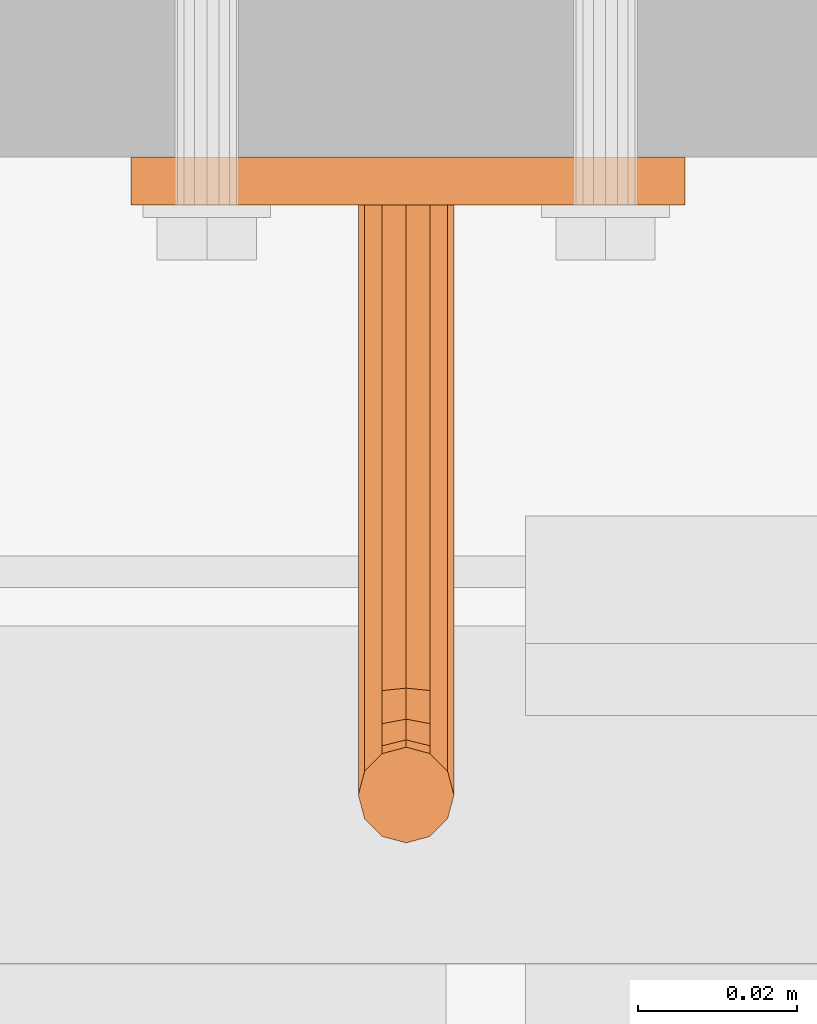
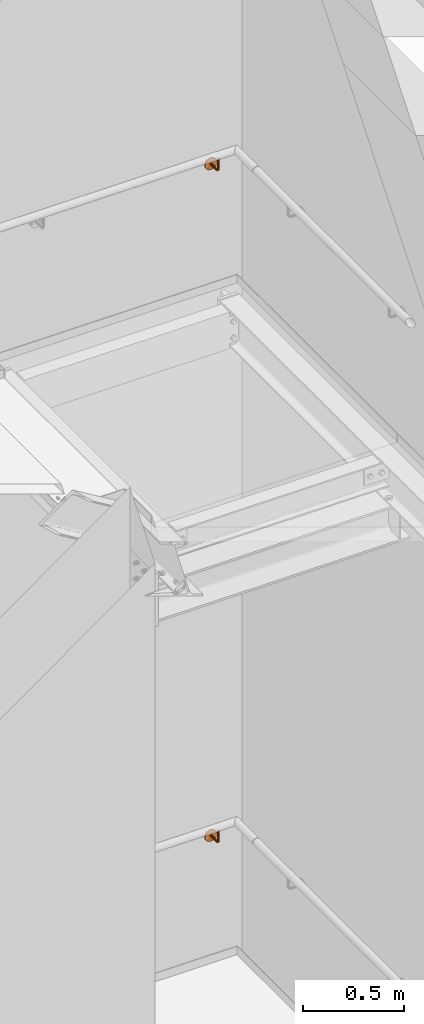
# One storey, part 398 of 410: 2 proxies.
"""IFC2X3 building model written with IfcOpenShell, lengths in millimetres."""

import ifcopenshell
import ifcopenshell.guid

model = None  # the IFC model being written
_history = None  # IfcOwnerHistory: only IFC2X3 demands one
_inside = {}  # id of a spatial element -> (the spatial element, [elements in it])
_under = {}  # id of a project, library or spatial element -> (it, [spatial elements below it])
_declared = {}  # id of a project -> (the project, [libraries it declares])
_typed = {}  # id of a type object -> (the type object, [elements of that type])
_made_of = {}  # id of a material, layer set ... -> (it, [elements and type objects made of it])


def new_model(schema):
    """Start an empty IFC model of exactly this schema.

    Asked for "IFC4X3", IfcOpenShell would pick the latest addendum, in which some entities
    have other attributes; the version numbers below select the first issue.
    IFC2X3 requires an IfcOwnerHistory on every rooted entity: one is made here for all.
    """
    global model, _history
    if schema == "IFC4X3":
        model = ifcopenshell.file(schema_version=(4, 3, 0, 0))
    else:
        model = ifcopenshell.file(schema=schema)
    _inside.clear()
    _under.clear()
    _declared.clear()
    _typed.clear()
    _made_of.clear()
    _history = None
    if model.schema == "IFC2X3":
        org = make("IfcOrganization", Name="unknown")
        user = make(
            "IfcPersonAndOrganization",
            ThePerson=make("IfcPerson", FamilyName="unknown"),
            TheOrganization=org,
        )
        app = make(
            "IfcApplication",
            ApplicationDeveloper=org,
            Version="unknown",
            ApplicationFullName="unknown",
            ApplicationIdentifier="unknown",
        )
        _history = make(
            "IfcOwnerHistory",
            OwningUser=user,
            OwningApplication=app,
            ChangeAction="ADDED",
            CreationDate=0,
        )
    return model


def make(cls, **values):
    """One entity of the class cls with the attributes given. An attribute that is None is left unset."""
    return model.create_entity(
        cls, **{name: value for name, value in values.items() if value is not None}
    )


def entity(cls, *values):
    """Any entity or typed value of the class cls, its attributes in the order of the schema. None: left unset."""
    e = model.create_entity(cls)
    for i, value in enumerate(values):
        if value is not None:
            e[i] = value
    return e


def rooted(cls, **values):
    """An entity with a GlobalId (a new one), such as an element, a storey or a relation."""
    return make(cls, GlobalId=ifcopenshell.guid.new(), OwnerHistory=_history, **values)


def si_unit(unit_type, name, prefix=None):
    """IfcSIUnit, for example si_unit("LENGTHUNIT", "METRE", prefix="MILLI")."""
    return make("IfcSIUnit", UnitType=unit_type, Prefix=prefix, Name=name)


def converted_unit(unit_type, name, factor, base, dimensions=None, offset=None):
    """IfcConversionBasedUnit, such as the inch: factor (a typed value) times the base unit."""
    return make(
        "IfcConversionBasedUnit"
        if offset is None
        else "IfcConversionBasedUnitWithOffset",
        ConversionOffset=offset,
        Dimensions=None
        if dimensions is None
        else entity("IfcDimensionalExponents", *dimensions),
        UnitType=unit_type,
        Name=name,
        ConversionFactor=make(
            "IfcMeasureWithUnit", ValueComponent=factor, UnitComponent=base
        ),
    )


def assignment(units):
    """IfcUnitAssignment: the units of a project."""
    return None if units is None else make("IfcUnitAssignment", Units=units)


def point(xyz):
    """IfcCartesianPoint."""
    return None if xyz is None else make("IfcCartesianPoint", Coordinates=xyz)


def direction(xyz):
    """IfcDirection."""
    return None if xyz is None else make("IfcDirection", DirectionRatios=xyz)


def frame(location, z_axis=None, x_axis=None):
    """IfcAxis2Placement3D, a coordinate frame: its origin and axes. An axis left out is left unset."""
    return make(
        "IfcAxis2Placement3D",
        Location=point(location),
        Axis=direction(z_axis),
        RefDirection=direction(x_axis),
    )


def origin_with_axes():
    """The frame at (0, 0, 0) with the z axis (0, 0, 1) and the x axis (1, 0, 0) written out."""
    return frame((0.0, 0.0, 0.0), z_axis=(0.0, 0.0, 1.0), x_axis=(1.0, 0.0, 0.0))


def place(relative_to, where):
    """IfcLocalPlacement: puts the frame where relative to a parent placement (None: the world)."""
    return make(
        "IfcLocalPlacement", PlacementRelTo=relative_to, RelativePlacement=where
    )


def context(
    kind, dimensions, precision=None, world=None, true_north=None, identifier=None
):
    """IfcGeometricRepresentationContext, for example the 3D "Model" context."""
    return make(
        "IfcGeometricRepresentationContext",
        ContextIdentifier=identifier,
        ContextType=kind,
        CoordinateSpaceDimension=dimensions,
        Precision=precision,
        WorldCoordinateSystem=world,
        TrueNorth=true_north,
    )


def project(units=None, contexts=None):
    """IfcProject with its units and contexts."""
    return rooted(
        "IfcProject",
        Name="project",
        RepresentationContexts=contexts,
        UnitsInContext=assignment(units),
    )


def spatial(cls, under=None, at=None, **own):
    """A site, building, storey or space (cls), placed at a placement, below another one or the project."""
    s = rooted(cls, ObjectPlacement=at, **own)
    if under is not None:
        _under.setdefault(under.id(), (under, []))[1].append(s)
    return s


def faces_of(points, faces, orient=None, outer=None):
    """IfcFace entities. A face is a list of loops; a loop is a list of indices into points, from 0.

    orient and outer hold one flag for each loop. By default every Orientation is true, the
    first loop of a face is its IfcFaceOuterBound and the others are IfcFaceBound.
    """
    made = []
    for i, loops in enumerate(faces):
        bounds = []
        for j, loop in enumerate(loops):
            is_outer = j == 0 if outer is None else outer[i][j]
            bounds.append(
                make(
                    "IfcFaceOuterBound" if is_outer else "IfcFaceBound",
                    Bound=make("IfcPolyLoop", Polygon=[points[k] for k in loop]),
                    Orientation=True if orient is None else orient[i][j],
                )
            )
        made.append(make("IfcFace", Bounds=bounds))
    return made


def faceted_brep(points, faces, orient=None, outer=None, voids=None):
    """IfcFacetedBrep: a solid bounded by flat faces; with voids (closed shells), ...WithVoids."""
    shared = [point(p) for p in points]
    hull = make("IfcClosedShell", CfsFaces=faces_of(shared, faces, orient, outer))
    if voids is None:
        return make("IfcFacetedBrep", Outer=hull)
    return make(
        "IfcFacetedBrepWithVoids",
        Outer=hull,
        Voids=[
            make(cls, CfsFaces=faces_of(shared, fs, o, b)) for cls, fs, o, b in voids
        ],
    )


def shape(context_of_items, identifier, shape_type, items):
    """IfcShapeRepresentation: the items that make up one representation, for example the "Body"."""
    return make(
        "IfcShapeRepresentation",
        ContextOfItems=context_of_items,
        RepresentationIdentifier=identifier,
        RepresentationType=shape_type,
        Items=items,
    )


def made_of(thing, what):
    """Note that an element or type object is made of a material, layer set ...; save() writes the relation."""
    if what is not None:
        _made_of.setdefault(what.id(), (what, []))[1].append(thing)
    return thing


def element(
    cls,
    number,
    at=None,
    inside=None,
    cuts=None,
    type_object=None,
    material=None,
    context=None,
    identifier="Body",
    shape_type=None,
    held_by="IfcProductDefinitionShape",
    body=None,
    shapes=None,
    **own,
):
    """One element of the class cls, such as IfcWall. Its Tag is "e" and its number.

    at: its placement. inside: the storey or other place that contains it. cuts: it is an
    opening in that element (IfcRelVoidsElement). A single representation is given by context,
    identifier, shape_type and body (its items); several are given by shapes. held_by: the class
    of the entity that holds the representations. save() writes the other relations.
    """
    e = rooted(cls, Tag="e%d" % number, ObjectPlacement=at, **own)
    if body is not None:
        shapes = [shape(context, identifier, shape_type, body)]
    if shapes is not None:
        e.Representation = make(held_by, Representations=shapes)
    if inside is not None:
        _inside.setdefault(inside.id(), (inside, []))[1].append(e)
    if cuts is not None:
        rooted(
            "IfcRelVoidsElement", RelatingBuildingElement=cuts, RelatedOpeningElement=e
        )
    if type_object is not None:
        _typed.setdefault(type_object.id(), (type_object, []))[1].append(e)
    return made_of(e, material)


def aggregate(whole, parts):
    """IfcRelAggregates: a whole, such as a stair, and the parts it consists of."""
    return rooted("IfcRelAggregates", RelatingObject=whole, RelatedObjects=parts)


def save(model, path):
    """Write the relations noted so far, then the file.

    IfcRelAggregates (storeys below a building ...), IfcRelContainedInSpatialStructure (elements
    in a storey), IfcRelDefinesByType, IfcRelAssociatesMaterial and IfcRelDeclares: one each for
    every whole, place, type object, material and project.
    """
    for whole, parts in _under.values():
        aggregate(whole, parts)
    for where, things in _inside.values():
        rooted(
            "IfcRelContainedInSpatialStructure",
            RelatedElements=things,
            RelatingStructure=where,
        )
    for kind, things in _typed.values():
        rooted("IfcRelDefinesByType", RelatedObjects=things, RelatingType=kind)
    for what, things in _made_of.values():
        rooted("IfcRelAssociatesMaterial", RelatedObjects=things, RelatingMaterial=what)
    for by, libraries in _declared.values():
        rooted("IfcRelDeclares", RelatingContext=by, RelatedDefinitions=libraries)
    model.write(path)


model = new_model("IFC2X3")

# Units and contexts
model_context = context("Model", 3, precision=1e-09, world=origin_with_axes())
ifc_project = project(units=[si_unit("LENGTHUNIT", "METRE", prefix="MILLI"), si_unit("AREAUNIT", "SQUARE_METRE"), si_unit("VOLUMEUNIT", "CUBIC_METRE"), converted_unit("PLANEANGLEUNIT", "DEGREE", entity("IfcPlaneAngleMeasure", 0.01745329), si_unit("PLANEANGLEUNIT", "RADIAN"), dimensions=[0, 0, 0, 0, 0, 0, 0])], contexts=[model_context])

# Site, building, storey
site_placement = place(None, origin_with_axes())
site = spatial("IfcSite", under=ifc_project, at=site_placement, Name="mKR Teilneubau & Sanierung BA1 - Ostfildern", CompositionType="ELEMENT")
building_placement = place(site_placement, origin_with_axes())
building = spatial("IfcBuilding", under=site, at=building_placement, Name="Struktur 1", CompositionType="ELEMENT")
storey_placement = place(building_placement, origin_with_axes())
storey = spatial("IfcBuildingStorey", under=building, at=storey_placement, Name="Default Storey", CompositionType="ELEMENT", Elevation=0.0)

# Proxies
proxy_1_placement = place(None, origin_with_axes())
element("IfcBuildingElementProxy", 1, at=proxy_1_placement, inside=storey, ObjectType="-", context=model_context, shape_type="Brep", body=[
    faceted_brep([(3081.31860902, 18620.000061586, -1410.875), (3081.31860902, 18614.000061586, -1410.875), (3080.749216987, 18614.000061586, -1413.0), (3080.749216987, 18620.000061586, -1413.0), (3129.142402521, 18614.000061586, -1383.699173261), (3118.591209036, 18614.000061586, -1379.070990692), (3107.108939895, 18614.000061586, -1378.119542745), (3095.939877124, 18614.000061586, -1380.947933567), (3086.29436198, 18614.000061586, -1387.249663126), (3079.217635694, 18614.000061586, -1396.341841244), (3075.476571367, 18614.000061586, -1407.23918934), (3075.476571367, 18614.000061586, -1418.76081066), (3079.217635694, 18614.000061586, -1429.658158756), (3086.29436198, 18614.000061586, -1438.750336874), (3095.939877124, 18614.000061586, -1445.052066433), (3107.108939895, 18614.000061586, -1447.880457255), (3118.591209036, 18614.000061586, -1446.929009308), (3129.142402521, 18614.000061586, -1442.300826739), (3137.619134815, 18614.000061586, -1434.497444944), (3143.102820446, 18614.000061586, -1424.364481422), (3144.999216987, 18614.000061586, -1413.0), (3143.102820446, 18614.000061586, -1401.635518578), (3137.619134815, 18614.000061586, -1391.502555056), (3082.874216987, 18614.000061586, -1409.319392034), (3084.999216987, 18614.000061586, -1408.75), (3087.124216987, 18614.000061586, -1409.319392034), (3088.679824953, 18614.000061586, -1410.875), (3089.249216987, 18614.000061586, -1413.0), (3088.679824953, 18614.000061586, -1415.125), (3087.124216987, 18614.000061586, -1416.680607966), (3084.999216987, 18614.000061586, -1417.25), (3082.874216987, 18614.000061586, -1416.680607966), (3081.31860902, 18614.000061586, -1415.125), (3131.31860902, 18614.000061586, -1410.875), (3132.874216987, 18614.000061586, -1409.319392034), (3134.999216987, 18614.000061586, -1408.75), (3137.124216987, 18614.000061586, -1409.319392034), (3138.679824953, 18614.000061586, -1410.875), (3139.249216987, 18614.000061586, -1413.0), (3138.679824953, 18614.000061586, -1415.125), (3137.124216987, 18614.000061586, -1416.680607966), (3134.999216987, 18614.000061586, -1417.25), (3132.874216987, 18614.000061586, -1416.680607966), (3131.31860902, 18614.000061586, -1415.125), (3130.749216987, 18614.000061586, -1413.0), (3082.874216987, 18620.000061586, -1409.319392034), (3129.142402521, 18620.000061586, -1442.300826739), (3118.591209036, 18620.000061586, -1446.929009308), (3107.108939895, 18620.000061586, -1447.880457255), (3095.939877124, 18620.000061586, -1445.052066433), (3086.29436198, 18620.000061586, -1438.750336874), (3079.217635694, 18620.000061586, -1429.658158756), (3075.476571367, 18620.000061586, -1418.76081066), (3075.476571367, 18620.000061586, -1407.23918934), (3079.217635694, 18620.000061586, -1396.341841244), (3086.29436198, 18620.000061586, -1387.249663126), (3095.939877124, 18620.000061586, -1380.947933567), (3107.108939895, 18620.000061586, -1378.119542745), (3118.591209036, 18620.000061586, -1379.070990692), (3129.142402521, 18620.000061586, -1383.699173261), (3137.619134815, 18620.000061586, -1391.502555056), (3143.102820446, 18620.000061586, -1401.635518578), (3144.999216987, 18620.000061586, -1413.0), (3143.102820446, 18620.000061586, -1424.364481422), (3137.619134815, 18620.000061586, -1434.497444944), (3081.31860902, 18620.000061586, -1415.125), (3082.874216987, 18620.000061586, -1416.680607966), (3084.999216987, 18620.000061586, -1417.25), (3087.124216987, 18620.000061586, -1416.680607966), (3088.679824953, 18620.000061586, -1415.125), (3089.249216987, 18620.000061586, -1413.0), (3088.679824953, 18620.000061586, -1410.875), (3087.124216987, 18620.000061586, -1409.319392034), (3084.999216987, 18620.000061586, -1408.75), (3131.31860902, 18620.000061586, -1415.125), (3132.874216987, 18620.000061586, -1416.680607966), (3134.999216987, 18620.000061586, -1417.25), (3137.124216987, 18620.000061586, -1416.680607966), (3138.679824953, 18620.000061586, -1415.125), (3139.249216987, 18620.000061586, -1413.0), (3138.679824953, 18620.000061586, -1410.875), (3137.124216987, 18620.000061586, -1409.319392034), (3134.999216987, 18620.000061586, -1408.75), (3132.874216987, 18620.000061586, -1409.319392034), (3131.31860902, 18620.000061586, -1410.875), (3130.749216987, 18620.000061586, -1413.0)], [[[0, 1, 2, 3]], [[4, 5, 6, 7, 8, 9, 10, 11, 12, 13, 14, 15, 16, 17, 18, 19, 20, 21, 22], [2, 1, 23, 24, 25, 26, 27, 28, 29, 30, 31, 32], [33, 34, 35, 36, 37, 38, 39, 40, 41, 42, 43, 44]], [[1, 0, 45, 23]], [[46, 47, 48, 49, 50, 51, 52, 53, 54, 55, 56, 57, 58, 59, 60, 61, 62, 63, 64], [0, 3, 65, 66, 67, 68, 69, 70, 71, 72, 73, 45], [74, 75, 76, 77, 78, 79, 80, 81, 82, 83, 84, 85]], [[3, 2, 32, 65]], [[10, 53, 52, 11]], [[65, 32, 31, 66]], [[23, 45, 73, 24]], [[53, 10, 9, 54]], [[66, 31, 30, 67]], [[11, 52, 51, 12]], [[24, 73, 72, 25]], [[8, 55, 54, 9]], [[67, 30, 29, 68]], [[55, 8, 7, 56]], [[50, 13, 12, 51]], [[25, 72, 71, 26]], [[13, 50, 49, 14]], [[68, 29, 28, 69]], [[26, 71, 70, 27]], [[56, 7, 6, 57]], [[69, 28, 27, 70]], [[14, 49, 48, 15]], [[57, 6, 5, 58]], [[44, 85, 84, 33]], [[15, 48, 47, 16]], [[85, 44, 43, 74]], [[33, 84, 83, 34]], [[58, 5, 4, 59]], [[16, 47, 46, 17]], [[74, 43, 42, 75]], [[34, 83, 82, 35]], [[59, 4, 22, 60]], [[17, 46, 64, 18]], [[75, 42, 41, 76]], [[35, 82, 81, 36]], [[60, 22, 21, 61]], [[18, 64, 63, 19]], [[76, 41, 40, 77]], [[20, 62, 61, 21]], [[36, 81, 80, 37]], [[62, 20, 19, 63]], [[77, 40, 39, 78]], [[37, 80, 79, 38]], [[78, 39, 38, 79]]]),
    faceted_brep([(3115.999216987, 18558.000061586, -1413.0), (3115.999216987, 18614.000061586, -1413.0), (3115.195369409, 18614.000061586, -1410.0), (3115.195369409, 18558.000061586, -1410.0), (3115.195369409, 18537.000061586, -1395.0), (3115.195369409, 18537.000061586, -1338.0), (3112.999216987, 18534.803909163, -1338.0), (3112.999216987, 18534.803909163, -1395.0), (3115.999216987, 18540.000061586, -1395.0), (3115.999216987, 18540.000061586, -1338.0), (3112.999216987, 18536.569611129, -1403.876783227), (3115.195369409, 18538.598591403, -1403.03635208), (3106.999216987, 18614.000061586, -1418.196152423), (3104.803064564, 18614.000061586, -1416.0), (3103.999216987, 18614.000061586, -1413.0), (3104.803064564, 18614.000061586, -1410.0), (3106.999216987, 18614.000061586, -1407.803847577), (3109.999216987, 18614.000061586, -1407.0), (3112.999216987, 18614.000061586, -1407.803847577), (3115.195369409, 18614.000061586, -1416.0), (3112.999216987, 18614.000061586, -1418.196152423), (3109.999216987, 18614.000061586, -1419.0), (3115.195369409, 18558.000061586, -1416.0), (3115.195369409, 18552.2598101, -1408.858192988), (3115.999216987, 18551.111759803, -1411.629831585), (3106.999216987, 18545.196214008, -1338.0), (3104.803064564, 18543.000061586, -1338.0), (3103.999216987, 18540.000061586, -1338.0), (3104.803064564, 18537.000061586, -1338.0), (3106.999216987, 18534.803909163, -1338.0), (3109.999216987, 18534.000061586, -1338.0), (3115.195369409, 18543.000061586, -1338.0), (3112.999216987, 18545.196214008, -1338.0), (3109.999216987, 18546.000061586, -1338.0), (3115.999216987, 18541.37023, -1401.888301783), (3115.195369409, 18543.150819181, -1409.849242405), (3115.999216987, 18545.272139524, -1407.727922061), (3112.999216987, 18558.000061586, -1407.803847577), (3115.195369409, 18549.963709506, -1414.401470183), (3109.999216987, 18534.000061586, -1395.0), (3115.195369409, 18543.000061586, -1395.0), (3109.999216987, 18535.826952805, -1404.184402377), (3112.999216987, 18541.59790491, -1411.402156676), (3115.195369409, 18547.393459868, -1405.606601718), (3112.999216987, 18553.100241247, -1406.829212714), (3112.999216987, 18558.000061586, -1418.196152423), (3115.195369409, 18544.141868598, -1400.740251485), (3109.999216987, 18558.000061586, -1407.0), (3112.999216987, 18549.123278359, -1416.430450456), (3106.999216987, 18534.803909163, -1395.0), (3112.999216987, 18545.196214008, -1395.0), (3106.999216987, 18536.569611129, -1403.876783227), (3109.999216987, 18541.029498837, -1411.970562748), (3112.999216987, 18548.946374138, -1404.053687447), (3109.999216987, 18553.407860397, -1406.08655439), (3109.999216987, 18558.000061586, -1419.0), (3112.999216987, 18546.170848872, -1399.899820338), (3104.803064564, 18537.000061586, -1395.0), (3106.999216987, 18558.000061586, -1407.803847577), (3109.999216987, 18548.815659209, -1417.17310878), (3109.999216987, 18546.000061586, -1395.0), (3104.803064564, 18538.598591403, -1403.03635208), (3106.999216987, 18541.59790491, -1411.402156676), (3109.999216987, 18549.514780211, -1403.485281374), (3106.999216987, 18553.100241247, -1406.829212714), (3106.999216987, 18558.000061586, -1418.196152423), (3109.999216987, 18546.913507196, -1399.592201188), (3103.999216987, 18540.000061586, -1395.0), (3104.803064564, 18558.000061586, -1410.0), (3106.999216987, 18549.123278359, -1416.430450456), (3106.999216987, 18545.196214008, -1395.0), (3104.803064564, 18543.000061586, -1395.0), (3103.999216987, 18541.37023, -1401.888301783), (3104.803064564, 18543.150819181, -1409.849242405), (3106.999216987, 18548.946374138, -1404.053687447), (3104.803064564, 18552.2598101, -1408.858192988), (3103.999216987, 18558.000061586, -1413.0), (3104.803064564, 18558.000061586, -1416.0), (3106.999216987, 18546.170848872, -1399.899820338), (3104.803064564, 18549.963709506, -1414.401470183), (3104.803064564, 18544.141868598, -1400.740251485), (3103.999216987, 18545.272139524, -1407.727922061), (3103.999216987, 18551.111759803, -1411.629831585), (3104.803064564, 18547.393459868, -1405.606601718)], [[[0, 1, 2, 3]], [[4, 5, 6, 7]], [[5, 4, 8, 9]], [[4, 7, 10, 11]], [[12, 13, 14, 15, 16, 17, 18, 2, 1, 19, 20, 21]], [[1, 0, 22, 19]], [[0, 3, 23, 24]], [[25, 26, 27, 28, 29, 30, 6, 5, 9, 31, 32, 33]], [[11, 34, 8, 4]], [[35, 36, 34, 11]], [[3, 2, 18, 37]], [[24, 38, 22, 0]], [[36, 35, 38, 24]], [[7, 6, 30, 39]], [[9, 8, 40, 31]], [[7, 39, 41, 10]], [[11, 10, 42, 35]], [[24, 23, 43, 36]], [[3, 37, 44, 23]], [[19, 22, 45, 20]], [[36, 43, 46, 34]], [[34, 46, 40, 8]], [[37, 18, 17, 47]], [[38, 48, 45, 22]], [[35, 42, 48, 38]], [[39, 30, 29, 49]], [[31, 40, 50, 32]], [[39, 49, 51, 41]], [[10, 41, 52, 42]], [[23, 44, 53, 43]], [[37, 47, 54, 44]], [[20, 45, 55, 21]], [[43, 53, 56, 46]], [[46, 56, 50, 40]], [[49, 29, 28, 57]], [[47, 17, 16, 58]], [[48, 59, 55, 45]], [[42, 52, 59, 48]], [[32, 50, 60, 33]], [[49, 57, 61, 51]], [[41, 51, 62, 52]], [[44, 54, 63, 53]], [[47, 58, 64, 54]], [[21, 55, 65, 12]], [[56, 66, 60, 50]], [[53, 63, 66, 56]], [[57, 28, 27, 67]], [[58, 16, 15, 68]], [[59, 69, 65, 55]], [[52, 62, 69, 59]], [[33, 60, 70, 25]], [[26, 71, 67, 27]], [[25, 70, 71, 26]], [[57, 67, 72, 61]], [[51, 61, 73, 62]], [[54, 64, 74, 63]], [[58, 68, 75, 64]], [[14, 76, 68, 15]], [[13, 77, 76, 14]], [[12, 65, 77, 13]], [[66, 78, 70, 60]], [[63, 74, 78, 66]], [[69, 79, 77, 65]], [[62, 73, 79, 69]], [[67, 71, 80, 72]], [[71, 70, 78, 80]], [[61, 72, 81, 73]], [[68, 76, 82, 75]], [[64, 75, 83, 74]], [[76, 77, 79, 82]], [[74, 83, 80, 78]], [[73, 81, 82, 79]], [[72, 80, 83, 81]], [[75, 82, 81, 83]]]),
])
proxy_2_placement = place(None, origin_with_axes())
element("IfcBuildingElementProxy", 2, at=proxy_2_placement, inside=storey, ObjectType="-", context=model_context, shape_type="Brep", body=[
    faceted_brep([(3081.31860902, 18620.000061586, 2647.7684785), (3081.31860902, 18614.000061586, 2647.7684785), (3080.749216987, 18614.000061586, 2645.6434785), (3080.749216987, 18620.000061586, 2645.6434785), (3129.142402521, 18614.000061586, 2674.944305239), (3118.591209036, 18614.000061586, 2679.572487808), (3107.108939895, 18614.000061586, 2680.523935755), (3095.939877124, 18614.000061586, 2677.695544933), (3086.29436198, 18614.000061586, 2671.393815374), (3079.217635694, 18614.000061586, 2662.301637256), (3075.476571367, 18614.000061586, 2651.40428916), (3075.476571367, 18614.000061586, 2639.88266784), (3079.217635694, 18614.000061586, 2628.985319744), (3086.29436198, 18614.000061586, 2619.893141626), (3095.939877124, 18614.000061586, 2613.591412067), (3107.108939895, 18614.000061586, 2610.763021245), (3118.591209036, 18614.000061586, 2611.714469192), (3129.142402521, 18614.000061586, 2616.342651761), (3137.619134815, 18614.000061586, 2624.146033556), (3143.102820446, 18614.000061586, 2634.278997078), (3144.999216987, 18614.000061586, 2645.6434785), (3143.102820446, 18614.000061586, 2657.007959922), (3137.619134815, 18614.000061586, 2667.140923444), (3082.874216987, 18614.000061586, 2649.324086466), (3084.999216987, 18614.000061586, 2649.8934785), (3087.124216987, 18614.000061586, 2649.324086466), (3088.679824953, 18614.000061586, 2647.7684785), (3089.249216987, 18614.000061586, 2645.6434785), (3088.679824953, 18614.000061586, 2643.5184785), (3087.124216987, 18614.000061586, 2641.962870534), (3084.999216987, 18614.000061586, 2641.3934785), (3082.874216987, 18614.000061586, 2641.962870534), (3081.31860902, 18614.000061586, 2643.5184785), (3131.31860902, 18614.000061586, 2647.7684785), (3132.874216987, 18614.000061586, 2649.324086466), (3134.999216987, 18614.000061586, 2649.8934785), (3137.124216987, 18614.000061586, 2649.324086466), (3138.679824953, 18614.000061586, 2647.7684785), (3139.249216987, 18614.000061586, 2645.6434785), (3138.679824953, 18614.000061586, 2643.5184785), (3137.124216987, 18614.000061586, 2641.962870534), (3134.999216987, 18614.000061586, 2641.3934785), (3132.874216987, 18614.000061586, 2641.962870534), (3131.31860902, 18614.000061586, 2643.5184785), (3130.749216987, 18614.000061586, 2645.6434785), (3082.874216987, 18620.000061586, 2649.324086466), (3129.142402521, 18620.000061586, 2616.342651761), (3118.591209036, 18620.000061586, 2611.714469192), (3107.108939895, 18620.000061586, 2610.763021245), (3095.939877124, 18620.000061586, 2613.591412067), (3086.29436198, 18620.000061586, 2619.893141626), (3079.217635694, 18620.000061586, 2628.985319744), (3075.476571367, 18620.000061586, 2639.88266784), (3075.476571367, 18620.000061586, 2651.40428916), (3079.217635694, 18620.000061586, 2662.301637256), (3086.29436198, 18620.000061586, 2671.393815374), (3095.939877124, 18620.000061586, 2677.695544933), (3107.108939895, 18620.000061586, 2680.523935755), (3118.591209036, 18620.000061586, 2679.572487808), (3129.142402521, 18620.000061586, 2674.944305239), (3137.619134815, 18620.000061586, 2667.140923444), (3143.102820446, 18620.000061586, 2657.007959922), (3144.999216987, 18620.000061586, 2645.6434785), (3143.102820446, 18620.000061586, 2634.278997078), (3137.619134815, 18620.000061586, 2624.146033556), (3081.31860902, 18620.000061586, 2643.5184785), (3082.874216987, 18620.000061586, 2641.962870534), (3084.999216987, 18620.000061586, 2641.3934785), (3087.124216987, 18620.000061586, 2641.962870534), (3088.679824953, 18620.000061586, 2643.5184785), (3089.249216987, 18620.000061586, 2645.6434785), (3088.679824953, 18620.000061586, 2647.7684785), (3087.124216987, 18620.000061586, 2649.324086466), (3084.999216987, 18620.000061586, 2649.8934785), (3131.31860902, 18620.000061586, 2643.5184785), (3132.874216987, 18620.000061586, 2641.962870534), (3134.999216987, 18620.000061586, 2641.3934785), (3137.124216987, 18620.000061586, 2641.962870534), (3138.679824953, 18620.000061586, 2643.5184785), (3139.249216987, 18620.000061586, 2645.6434785), (3138.679824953, 18620.000061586, 2647.7684785), (3137.124216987, 18620.000061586, 2649.324086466), (3134.999216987, 18620.000061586, 2649.8934785), (3132.874216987, 18620.000061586, 2649.324086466), (3131.31860902, 18620.000061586, 2647.7684785), (3130.749216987, 18620.000061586, 2645.6434785)], [[[0, 1, 2, 3]], [[4, 5, 6, 7, 8, 9, 10, 11, 12, 13, 14, 15, 16, 17, 18, 19, 20, 21, 22], [2, 1, 23, 24, 25, 26, 27, 28, 29, 30, 31, 32], [33, 34, 35, 36, 37, 38, 39, 40, 41, 42, 43, 44]], [[1, 0, 45, 23]], [[46, 47, 48, 49, 50, 51, 52, 53, 54, 55, 56, 57, 58, 59, 60, 61, 62, 63, 64], [0, 3, 65, 66, 67, 68, 69, 70, 71, 72, 73, 45], [74, 75, 76, 77, 78, 79, 80, 81, 82, 83, 84, 85]], [[3, 2, 32, 65]], [[10, 53, 52, 11]], [[65, 32, 31, 66]], [[23, 45, 73, 24]], [[53, 10, 9, 54]], [[66, 31, 30, 67]], [[11, 52, 51, 12]], [[24, 73, 72, 25]], [[8, 55, 54, 9]], [[67, 30, 29, 68]], [[55, 8, 7, 56]], [[50, 13, 12, 51]], [[25, 72, 71, 26]], [[13, 50, 49, 14]], [[68, 29, 28, 69]], [[26, 71, 70, 27]], [[56, 7, 6, 57]], [[69, 28, 27, 70]], [[14, 49, 48, 15]], [[57, 6, 5, 58]], [[44, 85, 84, 33]], [[15, 48, 47, 16]], [[85, 44, 43, 74]], [[33, 84, 83, 34]], [[58, 5, 4, 59]], [[16, 47, 46, 17]], [[74, 43, 42, 75]], [[34, 83, 82, 35]], [[59, 4, 22, 60]], [[17, 46, 64, 18]], [[75, 42, 41, 76]], [[35, 82, 81, 36]], [[60, 22, 21, 61]], [[18, 64, 63, 19]], [[76, 41, 40, 77]], [[20, 62, 61, 21]], [[36, 81, 80, 37]], [[62, 20, 19, 63]], [[77, 40, 39, 78]], [[37, 80, 79, 38]], [[78, 39, 38, 79]]]),
    faceted_brep([(3115.999216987, 18558.000061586, 2645.6434785), (3115.999216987, 18614.000061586, 2645.6434785), (3115.195369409, 18614.000061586, 2648.6434785), (3115.195369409, 18558.000061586, 2648.6434785), (3115.195369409, 18537.000061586, 2663.6434785), (3115.195369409, 18537.000061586, 2720.6434785), (3112.999216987, 18534.803909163, 2720.6434785), (3112.999216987, 18534.803909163, 2663.6434785), (3115.999216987, 18540.000061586, 2663.6434785), (3115.999216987, 18540.000061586, 2720.6434785), (3112.999216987, 18536.569611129, 2654.766695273), (3115.195369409, 18538.598591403, 2655.60712642), (3106.999216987, 18614.000061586, 2640.447326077), (3104.803064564, 18614.000061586, 2642.6434785), (3103.999216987, 18614.000061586, 2645.6434785), (3104.803064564, 18614.000061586, 2648.6434785), (3106.999216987, 18614.000061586, 2650.839630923), (3109.999216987, 18614.000061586, 2651.6434785), (3112.999216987, 18614.000061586, 2650.839630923), (3115.195369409, 18614.000061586, 2642.6434785), (3112.999216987, 18614.000061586, 2640.447326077), (3109.999216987, 18614.000061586, 2639.6434785), (3115.195369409, 18558.000061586, 2642.6434785), (3115.195369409, 18552.2598101, 2649.785285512), (3115.999216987, 18551.111759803, 2647.013646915), (3106.999216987, 18545.196214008, 2720.6434785), (3104.803064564, 18543.000061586, 2720.6434785), (3103.999216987, 18540.000061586, 2720.6434785), (3104.803064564, 18537.000061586, 2720.6434785), (3106.999216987, 18534.803909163, 2720.6434785), (3109.999216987, 18534.000061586, 2720.6434785), (3115.195369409, 18543.000061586, 2720.6434785), (3112.999216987, 18545.196214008, 2720.6434785), (3109.999216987, 18546.000061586, 2720.6434785), (3115.999216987, 18541.37023, 2656.755176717), (3115.195369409, 18543.150819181, 2648.794236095), (3115.999216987, 18545.272139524, 2650.915556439), (3112.999216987, 18558.000061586, 2650.839630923), (3115.195369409, 18549.963709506, 2644.242008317), (3109.999216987, 18534.000061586, 2663.6434785), (3115.195369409, 18543.000061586, 2663.6434785), (3109.999216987, 18535.826952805, 2654.459076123), (3112.999216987, 18541.59790491, 2647.241321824), (3115.195369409, 18547.393459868, 2653.036876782), (3112.999216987, 18553.100241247, 2651.814265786), (3112.999216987, 18558.000061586, 2640.447326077), (3115.195369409, 18544.141868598, 2657.903227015), (3109.999216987, 18558.000061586, 2651.6434785), (3112.999216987, 18549.123278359, 2642.213028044), (3106.999216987, 18534.803909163, 2663.6434785), (3112.999216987, 18545.196214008, 2663.6434785), (3106.999216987, 18536.569611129, 2654.766695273), (3109.999216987, 18541.029498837, 2646.672915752), (3112.999216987, 18548.946374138, 2654.589791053), (3109.999216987, 18553.407860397, 2652.55692411), (3109.999216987, 18558.000061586, 2639.6434785), (3112.999216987, 18546.170848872, 2658.743658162), (3104.803064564, 18537.000061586, 2663.6434785), (3106.999216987, 18558.000061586, 2650.839630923), (3109.999216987, 18548.815659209, 2641.47036972), (3109.999216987, 18546.000061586, 2663.6434785), (3104.803064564, 18538.598591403, 2655.60712642), (3106.999216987, 18541.59790491, 2647.241321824), (3109.999216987, 18549.514780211, 2655.158197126), (3106.999216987, 18553.100241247, 2651.814265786), (3106.999216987, 18558.000061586, 2640.447326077), (3109.999216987, 18546.913507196, 2659.051277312), (3103.999216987, 18540.000061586, 2663.6434785), (3104.803064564, 18558.000061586, 2648.6434785), (3106.999216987, 18549.123278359, 2642.213028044), (3106.999216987, 18545.196214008, 2663.6434785), (3104.803064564, 18543.000061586, 2663.6434785), (3103.999216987, 18541.37023, 2656.755176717), (3104.803064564, 18543.150819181, 2648.794236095), (3106.999216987, 18548.946374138, 2654.589791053), (3104.803064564, 18552.2598101, 2649.785285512), (3103.999216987, 18558.000061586, 2645.6434785), (3104.803064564, 18558.000061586, 2642.6434785), (3106.999216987, 18546.170848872, 2658.743658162), (3104.803064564, 18549.963709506, 2644.242008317), (3104.803064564, 18544.141868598, 2657.903227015), (3103.999216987, 18545.272139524, 2650.915556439), (3103.999216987, 18551.111759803, 2647.013646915), (3104.803064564, 18547.393459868, 2653.036876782)], [[[0, 1, 2, 3]], [[4, 5, 6, 7]], [[5, 4, 8, 9]], [[4, 7, 10, 11]], [[12, 13, 14, 15, 16, 17, 18, 2, 1, 19, 20, 21]], [[1, 0, 22, 19]], [[0, 3, 23, 24]], [[25, 26, 27, 28, 29, 30, 6, 5, 9, 31, 32, 33]], [[11, 34, 8, 4]], [[35, 36, 34, 11]], [[3, 2, 18, 37]], [[24, 38, 22, 0]], [[36, 35, 38, 24]], [[7, 6, 30, 39]], [[9, 8, 40, 31]], [[7, 39, 41, 10]], [[11, 10, 42, 35]], [[24, 23, 43, 36]], [[3, 37, 44, 23]], [[19, 22, 45, 20]], [[36, 43, 46, 34]], [[34, 46, 40, 8]], [[37, 18, 17, 47]], [[38, 48, 45, 22]], [[35, 42, 48, 38]], [[39, 30, 29, 49]], [[31, 40, 50, 32]], [[39, 49, 51, 41]], [[10, 41, 52, 42]], [[23, 44, 53, 43]], [[37, 47, 54, 44]], [[20, 45, 55, 21]], [[43, 53, 56, 46]], [[46, 56, 50, 40]], [[49, 29, 28, 57]], [[47, 17, 16, 58]], [[48, 59, 55, 45]], [[42, 52, 59, 48]], [[32, 50, 60, 33]], [[49, 57, 61, 51]], [[41, 51, 62, 52]], [[44, 54, 63, 53]], [[47, 58, 64, 54]], [[21, 55, 65, 12]], [[56, 66, 60, 50]], [[53, 63, 66, 56]], [[57, 28, 27, 67]], [[58, 16, 15, 68]], [[59, 69, 65, 55]], [[52, 62, 69, 59]], [[33, 60, 70, 25]], [[26, 71, 67, 27]], [[25, 70, 71, 26]], [[57, 67, 72, 61]], [[51, 61, 73, 62]], [[54, 64, 74, 63]], [[58, 68, 75, 64]], [[14, 76, 68, 15]], [[13, 77, 76, 14]], [[12, 65, 77, 13]], [[66, 78, 70, 60]], [[63, 74, 78, 66]], [[69, 79, 77, 65]], [[62, 73, 79, 69]], [[67, 71, 80, 72]], [[71, 70, 78, 80]], [[61, 72, 81, 73]], [[68, 76, 82, 75]], [[64, 75, 83, 74]], [[76, 77, 79, 82]], [[74, 83, 80, 78]], [[73, 81, 82, 79]], [[72, 80, 83, 81]], [[75, 82, 81, 83]]]),
])

save(model, "model.ifc")
